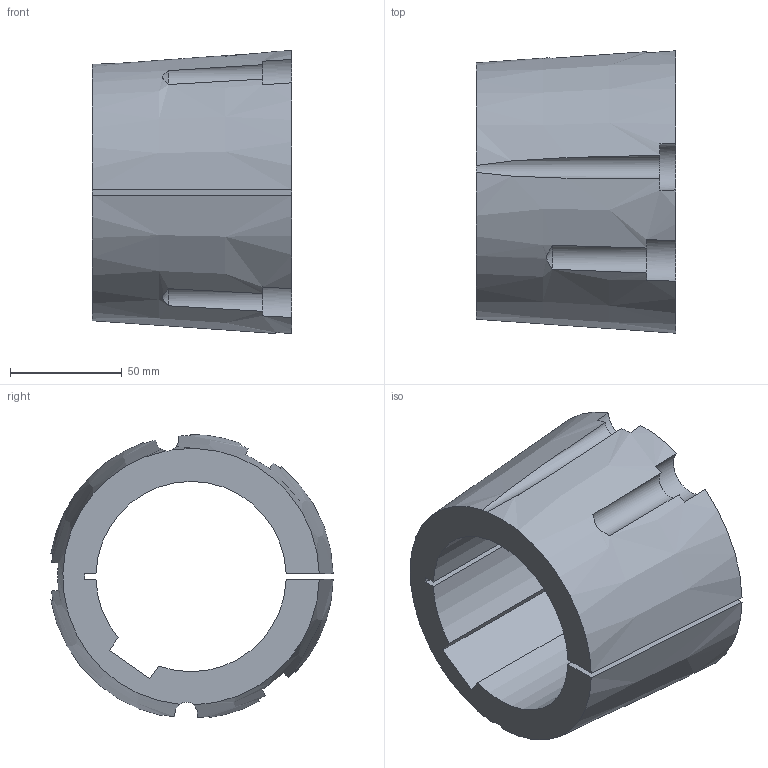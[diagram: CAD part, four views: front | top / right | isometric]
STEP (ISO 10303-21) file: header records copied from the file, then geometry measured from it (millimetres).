
FILE_DESCRIPTION( ( 'STEP AP203' ), '1' );
FILE_NAME( 'D:/export/antriebselemente/spannbuchsen_und_spannsaetze/taper-spannbuchsen_1008_bis_5050/taper-spannbuchsen_62251085Isometric_218.stp', '2018-12-11T11:11:28', ( '' ), ( '' ), ' ', 'PARTsolutions', ' ' );
FILE_SCHEMA( ( 'CONFIG_CONTROL_DESIGN' ) );
Length unit declared in the file: millimetre
Products named in the file (1): _taper-spannbuchsen_62251085
Bounding box: 89 x 126.13 x 126.46 mm (x, y, z)
Volume: 475927.8 mm3; surface area: 75406.8 mm2
Topology: 1 solids, 1 shells, 34 faces, 96 edges, 64 vertices
Faces by surface type: plane 15, cylinder 13, cone 6
Entity records: 1315 total; most frequent: CARTESIAN_POINT 391, ORIENTED_EDGE 192, DIRECTION 186, EDGE_CURVE 96, AXIS2_PLACEMENT_3D 80, VERTEX_POINT 64, CIRCLE 45, ADVANCED_FACE 34
